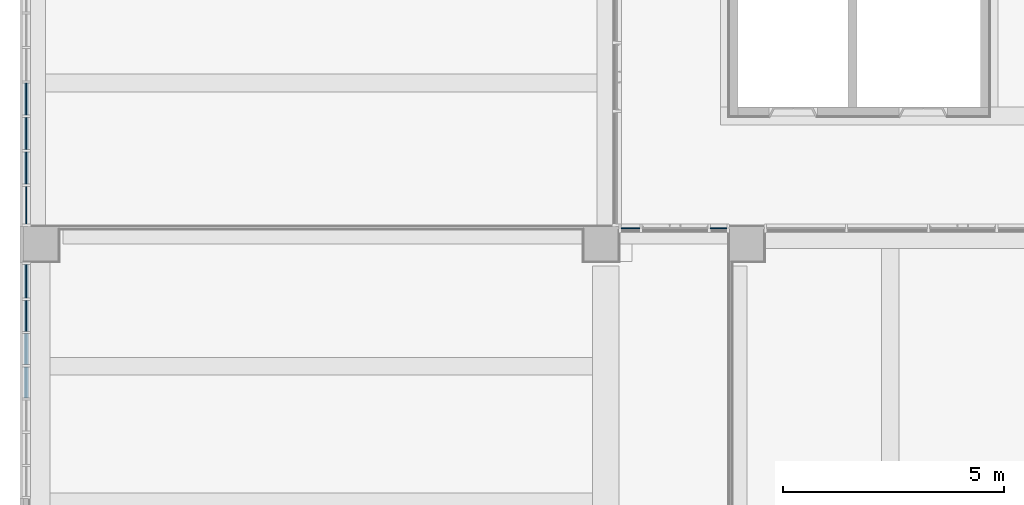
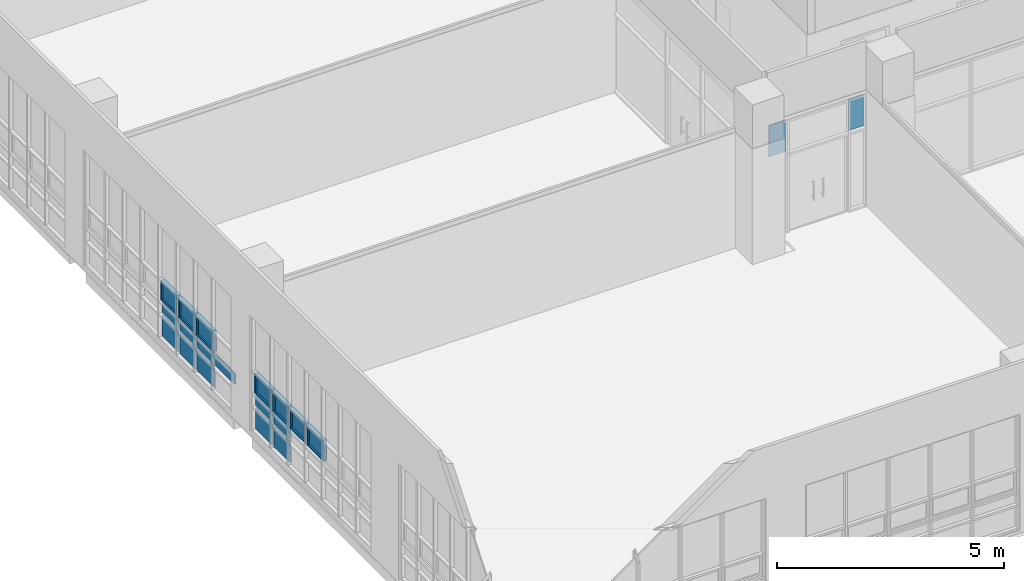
# One storey, part 39 of 74: 20 plates, 3 elements without a shape of their own.
"""IFC2X3 building model written with IfcOpenShell, lengths in millimetres."""

from ifc_helpers import new_model, entity, si_unit, converted_unit, derived_unit, direction, frame, origin, origin_2d_with_axis, place, context, subcontext, project, spatial, polyline, rectangle, outline, extrude, source, transform, mapped, material, material_list, type_object, type_shapes, element, aggregate, save


model = new_model("IFC2X3")

# Units and contexts
model_context = context("Model", 3, precision=0.01, world=origin(), true_north=direction((6.123031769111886e-17, 1.0)))
body_context = subcontext(model_context, "Body", "Model", "MODEL_VIEW")
ifc_project = project(units=[si_unit("LENGTHUNIT", "METRE", prefix="MILLI"), si_unit("AREAUNIT", "SQUARE_METRE"), si_unit("VOLUMEUNIT", "CUBIC_METRE"), converted_unit("PLANEANGLEUNIT", "DEGREE", entity("IfcRatioMeasure", 0.017453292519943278), si_unit("PLANEANGLEUNIT", "RADIAN"), dimensions=[0, 0, 0, 0, 0, 0, 0]), si_unit("MASSUNIT", "GRAM", prefix="KILO"), derived_unit("MASSDENSITYUNIT", [(si_unit("MASSUNIT", "GRAM", prefix="KILO"), 1), (si_unit("LENGTHUNIT", "METRE"), -3)]), derived_unit("MOMENTOFINERTIAUNIT", [(si_unit("LENGTHUNIT", "METRE"), 4)]), si_unit("TIMEUNIT", "SECOND"), si_unit("FREQUENCYUNIT", "HERTZ"), si_unit("THERMODYNAMICTEMPERATUREUNIT", "DEGREE_CELSIUS"), derived_unit("THERMALTRANSMITTANCEUNIT", [(si_unit("MASSUNIT", "GRAM", prefix="KILO"), 1), (si_unit("THERMODYNAMICTEMPERATUREUNIT", "KELVIN"), -1), (si_unit("TIMEUNIT", "SECOND"), -3)]), derived_unit("VOLUMETRICFLOWRATEUNIT", [(si_unit("LENGTHUNIT", "METRE"), 3), (si_unit("TIMEUNIT", "SECOND"), -1)]), derived_unit("MASSFLOWRATEUNIT", [(si_unit("MASSUNIT", "GRAM", prefix="KILO"), 1), (si_unit("TIMEUNIT", "SECOND"), -1)]), derived_unit("ROTATIONALFREQUENCYUNIT", [(si_unit("TIMEUNIT", "SECOND"), -1)]), si_unit("ELECTRICCURRENTUNIT", "AMPERE"), si_unit("ELECTRICVOLTAGEUNIT", "VOLT"), si_unit("POWERUNIT", "WATT"), si_unit("FORCEUNIT", "NEWTON", prefix="KILO"), si_unit("ILLUMINANCEUNIT", "LUX"), si_unit("LUMINOUSFLUXUNIT", "LUMEN"), si_unit("LUMINOUSINTENSITYUNIT", "CANDELA"), derived_unit("USERDEFINED", [(si_unit("MASSUNIT", "GRAM", prefix="KILO"), -1), (si_unit("LENGTHUNIT", "METRE"), -2), (si_unit("TIMEUNIT", "SECOND"), 3), (si_unit("LUMINOUSFLUXUNIT", "LUMEN"), 1)]), derived_unit("SOUNDPOWERUNIT", [(si_unit("MASSUNIT", "GRAM", prefix="KILO"), 1), (si_unit("LENGTHUNIT", "METRE"), 2), (si_unit("TIMEUNIT", "SECOND"), -3)]), derived_unit("SOUNDPRESSUREUNIT", [(si_unit("MASSUNIT", "GRAM", prefix="KILO"), 1), (si_unit("LENGTHUNIT", "METRE"), -1), (si_unit("TIMEUNIT", "SECOND"), -2)]), derived_unit("LINEARVELOCITYUNIT", [(si_unit("LENGTHUNIT", "METRE"), 1), (si_unit("TIMEUNIT", "SECOND"), -1)]), si_unit("PRESSUREUNIT", "PASCAL"), derived_unit("USERDEFINED", [(si_unit("LENGTHUNIT", "METRE"), -2), (si_unit("MASSUNIT", "GRAM", prefix="KILO"), 1), (si_unit("TIMEUNIT", "SECOND"), -2)]), derived_unit("LINEARFORCEUNIT", [(si_unit("MASSUNIT", "GRAM", prefix="KILO"), 1), (si_unit("LENGTHUNIT", "METRE"), 1), (si_unit("TIMEUNIT", "SECOND"), -2), (si_unit("LENGTHUNIT", "METRE"), -1)]), derived_unit("PLANARFORCEUNIT", [(si_unit("MASSUNIT", "GRAM", prefix="KILO"), 1), (si_unit("LENGTHUNIT", "METRE"), 1), (si_unit("TIMEUNIT", "SECOND"), -2), (si_unit("LENGTHUNIT", "METRE"), -2)])], contexts=[model_context])

# Site, building, storey
site_placement = place(None, frame((-14167.972527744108, -657.2125860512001, 0.0)))
site = spatial("IfcSite", under=ifc_project, at=site_placement, Name="Default", CompositionType="ELEMENT")
building_placement = place(site_placement, origin())
building = spatial("IfcBuilding", under=site, at=building_placement, Name="Sample Building", CompositionType="ELEMENT")
storey_placement = place(building_placement, frame((0.0, 0.0, 4800.0)))
storey = spatial("IfcBuildingStorey", under=building, at=storey_placement, Name="지상 2층", CompositionType="ELEMENT", Elevation=4800.000000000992)

# Curtain wall, plates
curtain_wall_type = type_object("IfcCurtainWallType", Name="커튼월:CW112-스테인리스 스틸 커튼월", PredefinedType="NOTDEFINED")
curtain_wall_1_placement = place(storey_placement, frame((0.0, 0.0, -4800.0)))
curtain_wall_1 = element("IfcCurtainWall", 1, at=curtain_wall_1_placement, inside=storey, type_object=curtain_wall_type, Name="커튼월:CW112-스테인리스 스틸 커튼월", ObjectType="커튼월:CW112-스테인리스 스틸 커튼월")
ifc_material_1 = material(Name="KBIMS-로이유리(코팅)")
plate_type_1 = type_object("IfcPlateType", Name="CW300-THK24.Low-e coating glass:CW300-THK24.Low-e coating glass", PredefinedType="CURTAIN_PANEL", material=ifc_material_1)
shared_shape_1 = source(origin(), body_context, "Body", "SweptSolid", [
    extrude(rectangle(XDim=731.2499999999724, YDim=24.000000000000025, at=origin_2d_with_axis()), frame((0.0, 0.0, 0.0), z_axis=(0.0, 0.0, 1.0), x_axis=(-1.0, 0.0, 0.0)), (0.0, 0.0, 1.0), 575.0000000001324),
])
type_shapes(plate_type_1, [shared_shape_1])
plate_1_placement = place(curtain_wall_1_placement, frame((14130.472570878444, 15941.587275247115, 4930.0), z_axis=(0.0, 0.0, 1.0), x_axis=(0.0, -1.0, 0.0)))
plate_1 = element("IfcPlate", 2, at=plate_1_placement, type_object=plate_type_1, material=ifc_material_1, Name="CW300-THK24.Low-e coating glass:CW300-THK24.Low-e coating glass", ObjectType="CW300-THK24.Low-e coating glass:CW300-THK24.Low-e coating glass", context=body_context, shape_type="MappedRepresentation", body=[
    mapped(shared_shape_1, transform((0.0, 0.0, 0.0), scale=1.0)),
])
plate_2_placement = place(curtain_wall_1_placement, frame((14130.472570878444, 15160.33727524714, 4930.0), z_axis=(0.0, 0.0, 1.0), x_axis=(0.0, -1.0, 0.0)))
plate_2 = element("IfcPlate", 3, at=plate_2_placement, type_object=plate_type_1, material=ifc_material_1, Name="CW300-THK24.Low-e coating glass:CW300-THK24.Low-e coating glass", ObjectType="CW300-THK24.Low-e coating glass:CW300-THK24.Low-e coating glass", context=body_context, shape_type="MappedRepresentation", body=[
    mapped(shared_shape_1, transform((0.0, 0.0, 0.0), scale=1.0)),
])
plate_3_placement = place(curtain_wall_1_placement, frame((14130.472570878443, 14379.087275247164, 4930.0), z_axis=(0.0, 0.0, 1.0), x_axis=(0.0, -1.0, 0.0)))
plate_3 = element("IfcPlate", 4, at=plate_3_placement, type_object=plate_type_1, material=ifc_material_1, Name="CW300-THK24.Low-e coating glass:CW300-THK24.Low-e coating glass", ObjectType="CW300-THK24.Low-e coating glass:CW300-THK24.Low-e coating glass", context=body_context, shape_type="MappedRepresentation", body=[
    mapped(shared_shape_1, transform((0.0, 0.0, 0.0), scale=1.0)),
])
plate_type_2 = type_object("IfcPlateType", Name="CW300-THK24.Low-e coating glass:CW300-THK24.Low-e coating glass", PredefinedType="CURTAIN_PANEL", material=ifc_material_1)
shared_shape_2 = source(origin(), body_context, "Body", "SweptSolid", [
    extrude(rectangle(XDim=731.2499999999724, YDim=24.000000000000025, at=origin_2d_with_axis()), frame((0.0, 0.0, 0.0), z_axis=(0.0, 0.0, 1.0), x_axis=(-1.0, 0.0, 0.0)), (0.0, 0.0, 1.0), 300.0),
])
type_shapes(plate_type_2, [shared_shape_2])
plate_4_placement = place(curtain_wall_1_placement, frame((14130.472570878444, 15941.587275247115, 5555.0), z_axis=(0.0, 0.0, 1.0), x_axis=(0.0, -1.0, 0.0)))
plate_4 = element("IfcPlate", 5, at=plate_4_placement, type_object=plate_type_2, material=ifc_material_1, Name="CW300-THK24.Low-e coating glass:CW300-THK24.Low-e coating glass", ObjectType="CW300-THK24.Low-e coating glass:CW300-THK24.Low-e coating glass", context=body_context, shape_type="MappedRepresentation", body=[
    mapped(shared_shape_2, transform((0.0, 0.0, 0.0), scale=1.0)),
])
plate_5_placement = place(curtain_wall_1_placement, frame((14130.472570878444, 15160.33727524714, 5555.0), z_axis=(0.0, 0.0, 1.0), x_axis=(0.0, -1.0, 0.0)))
plate_5 = element("IfcPlate", 6, at=plate_5_placement, type_object=plate_type_2, material=ifc_material_1, Name="CW300-THK24.Low-e coating glass:CW300-THK24.Low-e coating glass", ObjectType="CW300-THK24.Low-e coating glass:CW300-THK24.Low-e coating glass", context=body_context, shape_type="MappedRepresentation", body=[
    mapped(shared_shape_2, transform((0.0, 0.0, 0.0), scale=1.0)),
])
plate_6_placement = place(curtain_wall_1_placement, frame((14130.472570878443, 14379.087275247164, 5555.0), z_axis=(0.0, 0.0, 1.0), x_axis=(0.0, -1.0, 0.0)))
plate_6 = element("IfcPlate", 7, at=plate_6_placement, type_object=plate_type_2, material=ifc_material_1, Name="CW300-THK24.Low-e coating glass:CW300-THK24.Low-e coating glass", ObjectType="CW300-THK24.Low-e coating glass:CW300-THK24.Low-e coating glass", context=body_context, shape_type="MappedRepresentation", body=[
    mapped(shared_shape_2, transform((0.0, 0.0, 0.0), scale=1.0)),
])
plate_type_3 = type_object("IfcPlateType", Name="CW300-THK24.Low-e coating glass:CW300-THK24.Low-e coating glass", PredefinedType="CURTAIN_PANEL", material=ifc_material_1)
shared_shape_3 = source(origin(), body_context, "Body", "SweptSolid", [
    extrude(rectangle(XDim=856.2499672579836, YDim=24.000000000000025, at=origin_2d_with_axis()), frame((0.0, 0.0, 0.0), z_axis=(0.0, 0.0, 1.0), x_axis=(-1.0, 0.0, 0.0)), (0.0, 0.0, 1.0), 300.0),
])
type_shapes(plate_type_3, [shared_shape_3])
plate_7_placement = place(curtain_wall_1_placement, frame((14130.47257087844, 13535.337291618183, 5555.0), z_axis=(0.0, 0.0, 1.0), x_axis=(0.0, -1.0, 0.0)))
plate_7 = element("IfcPlate", 8, at=plate_7_placement, type_object=plate_type_3, material=ifc_material_1, Name="CW300-THK24.Low-e coating glass:CW300-THK24.Low-e coating glass", ObjectType="CW300-THK24.Low-e coating glass:CW300-THK24.Low-e coating glass", context=body_context, shape_type="MappedRepresentation", body=[
    mapped(shared_shape_3, transform((0.0, 0.0, 0.0), scale=1.0)),
])
ifc_material_2 = material(Name="KBIMS-유리")
ifc_material_3 = material(Name="KBIMS-알루미늄")
ifc_material_list_1 = material_list([ifc_material_2, ifc_material_3])
ifc_material_list_2 = material_list([ifc_material_2, ifc_material_3])
plate_type_4 = type_object("IfcPlateType", Name="CW410-프로젝트 창:CW410-프로젝트 창 (하부개폐)", PredefinedType="CURTAIN_PANEL", material=ifc_material_list_2)
shared_shape_4 = source(origin(), body_context, "Body", "SweptSolid", [
    extrude(rectangle(XDim=631.250000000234, YDim=23.999999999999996, at=origin_2d_with_axis()), frame((0.0, -0.04999999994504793, 50.0), z_axis=(0.0, 0.0, 1.0), x_axis=(-1.0, 0.0, 0.0)), (0.0, 0.0, 1.0), 450.0000000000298),
    extrude(outline(polyline([(-365.6249999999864, -275.0), (365.6249999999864, -275.0), (365.6249999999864, 275.0), (-365.6249999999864, 275.0), (-365.6249999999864, -275.0)]), holes=[polyline([(-315.62499999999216, -225.0), (-315.6249999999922, 225.0), (315.6250000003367, 225.0), (315.62500000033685, -225.0), (-315.62499999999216, -225.0)])]), frame((0.0, -50.04999999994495, 275.0), z_axis=(0.0, 1.0, 0.0), x_axis=(1.0, 0.0, 0.0)), (0.0, 0.0, 1.0), 99.99999999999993),
])
type_shapes(plate_type_4, [shared_shape_4])
plate_8_placement = place(curtain_wall_1_placement, frame((14130.472570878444, 15941.587275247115, 5905.0), z_axis=(0.0, 0.0, 1.0), x_axis=(0.0, -1.0, 0.0)))
plate_8 = element("IfcPlate", 9, at=plate_8_placement, type_object=plate_type_4, material=ifc_material_list_1, Name="CW410-프로젝트 창:CW410-프로젝트 창 (하부개폐)", ObjectType="CW410-프로젝트 창:CW410-프로젝트 창 (하부개폐)", context=body_context, shape_type="MappedRepresentation", body=[
    mapped(shared_shape_4, transform((0.0, 0.0, 0.0), scale=1.0)),
])
ifc_material_list_3 = material_list([ifc_material_2, ifc_material_3])
plate_9_placement = place(curtain_wall_1_placement, frame((14130.472570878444, 15160.33727524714, 5905.0), z_axis=(0.0, 0.0, 1.0), x_axis=(0.0, -1.0, 0.0)))
plate_9 = element("IfcPlate", 10, at=plate_9_placement, type_object=plate_type_4, material=ifc_material_list_3, Name="CW410-프로젝트 창:CW410-프로젝트 창 (하부개폐)", ObjectType="CW410-프로젝트 창:CW410-프로젝트 창 (하부개폐)", context=body_context, shape_type="MappedRepresentation", body=[
    mapped(shared_shape_4, transform((0.0, 0.0, 0.0), scale=1.0)),
])
ifc_material_list_4 = material_list([ifc_material_2, ifc_material_3])
plate_10_placement = place(curtain_wall_1_placement, frame((14130.472570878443, 14379.087275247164, 5905.0), z_axis=(0.0, 0.0, 1.0), x_axis=(0.0, -1.0, 0.0)))
plate_10 = element("IfcPlate", 11, at=plate_10_placement, type_object=plate_type_4, material=ifc_material_list_4, Name="CW410-프로젝트 창:CW410-프로젝트 창 (하부개폐)", ObjectType="CW410-프로젝트 창:CW410-프로젝트 창 (하부개폐)", context=body_context, shape_type="MappedRepresentation", body=[
    mapped(shared_shape_4, transform((0.0, 0.0, 0.0), scale=1.0)),
])
aggregate(curtain_wall_1, [plate_1, plate_2, plate_3, plate_4, plate_5, plate_6, plate_7, plate_8, plate_9, plate_10])

curtain_wall_2_placement = place(storey_placement, frame((0.0, 0.0, -4800.0)))
curtain_wall_2 = element("IfcCurtainWall", 12, at=curtain_wall_2_placement, inside=storey, type_object=curtain_wall_type, Name="커튼월:CW112-스테인리스 스틸 커튼월", ObjectType="커튼월:CW112-스테인리스 스틸 커튼월")
plate_type_5 = type_object("IfcPlateType", Name="CW300-THK24.Low-e coating glass:CW300-THK24.Low-e coating glass", PredefinedType="CURTAIN_PANEL", material=ifc_material_1)
shared_shape_5 = source(origin(), body_context, "Body", "SweptSolid", [
    extrude(rectangle(XDim=760.5714613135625, YDim=24.000000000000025, at=origin_2d_with_axis()), frame((0.0, 0.0, 0.0), z_axis=(0.0, 0.0, 1.0), x_axis=(-1.0, 0.0, 0.0)), (0.0, 0.0, 1.0), 575.0000000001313),
])
type_shapes(plate_type_5, [shared_shape_5])
plate_11_placement = place(curtain_wall_2_placement, frame((14130.472570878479, 11808.926577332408, 4930.0), z_axis=(0.0, 0.0, 1.0), x_axis=(0.0, -1.0, 0.0)))
plate_11 = element("IfcPlate", 13, at=plate_11_placement, type_object=plate_type_5, material=ifc_material_1, Name="CW300-THK24.Low-e coating glass:CW300-THK24.Low-e coating glass", ObjectType="CW300-THK24.Low-e coating glass:CW300-THK24.Low-e coating glass", context=body_context, shape_type="MappedRepresentation", body=[
    mapped(shared_shape_5, transform((0.0, 0.0, 0.0), scale=1.0)),
])
plate_type_6 = type_object("IfcPlateType", Name="CW300-THK24.Low-e coating glass:CW300-THK24.Low-e coating glass", PredefinedType="CURTAIN_PANEL", material=ifc_material_1)
shared_shape_6 = source(origin(), body_context, "Body", "SweptSolid", [
    extrude(rectangle(XDim=703.5714285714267, YDim=24.000000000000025, at=origin_2d_with_axis()), frame((0.0, 0.0, 0.0), z_axis=(0.0, 0.0, 1.0), x_axis=(-1.0, 0.0, 0.0)), (0.0, 0.0, 1.0), 575.0000000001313),
])
type_shapes(plate_type_6, [shared_shape_6])
plate_12_placement = place(curtain_wall_2_placement, frame((14130.472570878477, 11026.85513238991, 4930.0), z_axis=(0.0, 0.0, 1.0), x_axis=(0.0, -1.0, 0.0)))
plate_12 = element("IfcPlate", 14, at=plate_12_placement, type_object=plate_type_6, material=ifc_material_1, Name="CW300-THK24.Low-e coating glass:CW300-THK24.Low-e coating glass", ObjectType="CW300-THK24.Low-e coating glass:CW300-THK24.Low-e coating glass", context=body_context, shape_type="MappedRepresentation", body=[
    mapped(shared_shape_6, transform((0.0, 0.0, 0.0), scale=1.0)),
])
plate_type_7 = type_object("IfcPlateType", Name="CW300-THK24.Low-e coating glass:CW300-THK24.Low-e coating glass", PredefinedType="CURTAIN_PANEL", material=ifc_material_1)
shared_shape_7 = source(origin(), body_context, "Body", "SweptSolid", [
    extrude(rectangle(XDim=760.5714613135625, YDim=24.000000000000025, at=origin_2d_with_axis()), frame((0.0, 0.0, 0.0), z_axis=(0.0, 0.0, 1.0), x_axis=(-1.0, 0.0, 0.0)), (0.0, 0.0, 1.0), 300.0000000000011),
])
type_shapes(plate_type_7, [shared_shape_7])
plate_13_placement = place(curtain_wall_2_placement, frame((14130.472570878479, 11808.926577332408, 5555.0), z_axis=(0.0, 0.0, 1.0), x_axis=(0.0, -1.0, 0.0)))
plate_13 = element("IfcPlate", 15, at=plate_13_placement, type_object=plate_type_7, material=ifc_material_1, Name="CW300-THK24.Low-e coating glass:CW300-THK24.Low-e coating glass", ObjectType="CW300-THK24.Low-e coating glass:CW300-THK24.Low-e coating glass", context=body_context, shape_type="MappedRepresentation", body=[
    mapped(shared_shape_7, transform((0.0, 0.0, 0.0), scale=1.0)),
])
plate_type_8 = type_object("IfcPlateType", Name="CW300-THK24.Low-e coating glass:CW300-THK24.Low-e coating glass", PredefinedType="CURTAIN_PANEL", material=ifc_material_1)
shared_shape_8 = source(origin(), body_context, "Body", "SweptSolid", [
    extrude(rectangle(XDim=703.5714285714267, YDim=24.000000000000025, at=origin_2d_with_axis()), frame((0.0, 0.0, 0.0), z_axis=(0.0, 0.0, 1.0), x_axis=(-1.0, 0.0, 0.0)), (0.0, 0.0, 1.0), 300.0000000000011),
])
type_shapes(plate_type_8, [shared_shape_8])
plate_14_placement = place(curtain_wall_2_placement, frame((14130.472570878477, 11026.85513238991, 5555.0), z_axis=(0.0, 0.0, 1.0), x_axis=(0.0, -1.0, 0.0)))
plate_14 = element("IfcPlate", 16, at=plate_14_placement, type_object=plate_type_8, material=ifc_material_1, Name="CW300-THK24.Low-e coating glass:CW300-THK24.Low-e coating glass", ObjectType="CW300-THK24.Low-e coating glass:CW300-THK24.Low-e coating glass", context=body_context, shape_type="MappedRepresentation", body=[
    mapped(shared_shape_8, transform((0.0, 0.0, 0.0), scale=1.0)),
])
ifc_material_list_5 = material_list([ifc_material_2, ifc_material_3])
ifc_material_list_6 = material_list([ifc_material_2, ifc_material_3])
plate_type_9 = type_object("IfcPlateType", Name="CW410-프로젝트 창:CW410-프로젝트 창 (하부개폐)", PredefinedType="CURTAIN_PANEL", material=ifc_material_list_6)
shared_shape_9 = source(origin(), body_context, "Body", "SweptSolid", [
    extrude(rectangle(XDim=660.5714613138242, YDim=23.999999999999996, at=origin_2d_with_axis()), frame((0.0, -0.04999999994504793, 50.0), z_axis=(0.0, 0.0, 1.0), x_axis=(-1.0, 0.0, 0.0)), (0.0, 0.0, 1.0), 450.0000000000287),
    extrude(outline(polyline([(-380.2857306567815, -275.0), (380.2857306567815, -275.0), (380.2857306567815, 275.0), (-380.2857306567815, 275.0), (-380.2857306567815, -275.0)]), holes=[polyline([(-330.2857306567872, -225.0), (-330.2857306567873, 225.0), (330.28573065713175, 225.0), (330.2857306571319, -225.0), (-330.2857306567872, -225.0)])]), frame((0.0, -50.04999999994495, 275.0), z_axis=(0.0, 1.0, 0.0), x_axis=(1.0, 0.0, 0.0)), (0.0, 0.0, 1.0), 99.99999999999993),
])
type_shapes(plate_type_9, [shared_shape_9])
plate_15_placement = place(curtain_wall_2_placement, frame((14130.472570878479, 11808.926577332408, 5905.0), z_axis=(0.0, 0.0, 1.0), x_axis=(0.0, -1.0, 0.0)))
plate_15 = element("IfcPlate", 17, at=plate_15_placement, type_object=plate_type_9, material=ifc_material_list_5, Name="CW410-프로젝트 창:CW410-프로젝트 창 (하부개폐)", ObjectType="CW410-프로젝트 창:CW410-프로젝트 창 (하부개폐)", context=body_context, shape_type="MappedRepresentation", body=[
    mapped(shared_shape_9, transform((0.0, 0.0, 0.0), scale=1.0)),
])
ifc_material_list_7 = material_list([ifc_material_2, ifc_material_3])
ifc_material_list_8 = material_list([ifc_material_2, ifc_material_3])
plate_type_10 = type_object("IfcPlateType", Name="CW410-프로젝트 창:CW410-프로젝트 창 (하부개폐)", PredefinedType="CURTAIN_PANEL", material=ifc_material_list_8)
shared_shape_10 = source(origin(), body_context, "Body", "SweptSolid", [
    extrude(rectangle(XDim=603.5714285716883, YDim=23.999999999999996, at=origin_2d_with_axis()), frame((0.0, -0.04999999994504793, 50.0), z_axis=(0.0, 0.0, 1.0), x_axis=(-1.0, 0.0, 0.0)), (0.0, 0.0, 1.0), 450.0000000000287),
    extrude(outline(polyline([(-351.78571428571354, -275.0), (351.78571428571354, -275.0), (351.78571428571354, 275.0), (-351.78571428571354, 275.0), (-351.78571428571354, -275.0)]), holes=[polyline([(-301.7857142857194, -225.0), (-301.7857142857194, 225.0), (301.785714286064, 225.0), (301.785714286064, -225.0), (-301.7857142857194, -225.0)])]), frame((0.0, -50.04999999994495, 275.0), z_axis=(0.0, 1.0, 0.0), x_axis=(1.0, 0.0, 0.0)), (0.0, 0.0, 1.0), 99.99999999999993),
])
type_shapes(plate_type_10, [shared_shape_10])
plate_16_placement = place(curtain_wall_2_placement, frame((14130.472570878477, 11026.85513238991, 5905.0), z_axis=(0.0, 0.0, 1.0), x_axis=(0.0, -1.0, 0.0)))
plate_16 = element("IfcPlate", 18, at=plate_16_placement, type_object=plate_type_10, material=ifc_material_list_7, Name="CW410-프로젝트 창:CW410-프로젝트 창 (하부개폐)", ObjectType="CW410-프로젝트 창:CW410-프로젝트 창 (하부개폐)", context=body_context, shape_type="MappedRepresentation", body=[
    mapped(shared_shape_10, transform((0.0, 0.0, 0.0), scale=1.0)),
])
ifc_material_list_9 = material_list([ifc_material_2, ifc_material_3])
plate_17_placement = place(curtain_wall_2_placement, frame((14130.472570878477, 10273.283703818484, 5905.0), z_axis=(0.0, 0.0, 1.0), x_axis=(0.0, -1.0, 0.0)))
plate_17 = element("IfcPlate", 19, at=plate_17_placement, type_object=plate_type_10, material=ifc_material_list_9, Name="CW410-프로젝트 창:CW410-프로젝트 창 (하부개폐)", ObjectType="CW410-프로젝트 창:CW410-프로젝트 창 (하부개폐)", context=body_context, shape_type="MappedRepresentation", body=[
    mapped(shared_shape_10, transform((0.0, 0.0, 0.0), scale=1.0)),
])
ifc_material_list_10 = material_list([ifc_material_2, ifc_material_3])
plate_18_placement = place(curtain_wall_2_placement, frame((14130.472570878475, 9519.712275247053, 5905.0), z_axis=(0.0, 0.0, 1.0), x_axis=(0.0, -1.0, 0.0)))
plate_18 = element("IfcPlate", 20, at=plate_18_placement, type_object=plate_type_10, material=ifc_material_list_10, Name="CW410-프로젝트 창:CW410-프로젝트 창 (하부개폐)", ObjectType="CW410-프로젝트 창:CW410-프로젝트 창 (하부개폐)", context=body_context, shape_type="MappedRepresentation", body=[
    mapped(shared_shape_10, transform((0.0, 0.0, 0.0), scale=1.0)),
])
aggregate(curtain_wall_2, [plate_11, plate_12, plate_13, plate_14, plate_15, plate_16, plate_17, plate_18])

curtain_wall_3_placement = place(storey_placement, frame((0.0, 0.0, -4800.0)))
curtain_wall_3 = element("IfcCurtainWall", 21, at=curtain_wall_3_placement, inside=storey, type_object=curtain_wall_type, Name="커튼월:CW112-스테인리스 스틸 커튼월", ObjectType="커튼월:CW112-스테인리스 스틸 커튼월")
plate_type_11 = type_object("IfcPlateType", Name="CW300-THK24.Low-e coating glass:CW300-THK24.Low-e coating glass", PredefinedType="CURTAIN_PANEL", material=ifc_material_1)
shared_shape_11 = source(origin(), body_context, "Body", "SweptSolid", [
    extrude(rectangle(XDim=24.000000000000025, YDim=376.829299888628, at=origin_2d_with_axis()), frame((0.0, 0.0, 0.0), z_axis=(0.0, 0.0, 1.0), x_axis=(0.0, 1.0, 0.0)), (0.0, 0.0, 1.0), 845.0000000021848),
])
type_shapes(plate_type_11, [shared_shape_11])
plate_19_placement = place(curtain_wall_3_placement, frame((29829.540464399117, 13012.212307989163, 7005.0), z_axis=(0.0, 0.0, 1.0), x_axis=(-1.0, 0.0, 0.0)))
plate_19 = element("IfcPlate", 22, at=plate_19_placement, type_object=plate_type_11, material=ifc_material_1, Name="CW300-THK24.Low-e coating glass:CW300-THK24.Low-e coating glass", ObjectType="CW300-THK24.Low-e coating glass:CW300-THK24.Low-e coating glass", context=body_context, shape_type="MappedRepresentation", body=[
    mapped(shared_shape_11, transform((0.0, 0.0, 0.0), scale=1.0)),
])
plate_type_12 = type_object("IfcPlateType", Name="CW300-THK24.Low-e coating glass:CW300-THK24.Low-e coating glass", PredefinedType="CURTAIN_PANEL", material=ifc_material_1)
shared_shape_12 = source(origin(), body_context, "Body", "SweptSolid", [
    extrude(rectangle(XDim=24.000000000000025, YDim=423.1454999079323, at=origin_2d_with_axis()), frame((0.0, 0.0, 0.0), z_axis=(0.0, 0.0, 1.0), x_axis=(0.0, 1.0, 0.0)), (0.0, 0.0, 1.0), 845.0000000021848),
])
type_shapes(plate_type_12, [shared_shape_12])
plate_20_placement = place(curtain_wall_3_placement, frame((27829.553064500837, 13012.212307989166, 7005.0), z_axis=(0.0, 0.0, 1.0), x_axis=(-1.0, 0.0, 0.0)))
plate_20 = element("IfcPlate", 23, at=plate_20_placement, type_object=plate_type_12, material=ifc_material_1, Name="CW300-THK24.Low-e coating glass:CW300-THK24.Low-e coating glass", ObjectType="CW300-THK24.Low-e coating glass:CW300-THK24.Low-e coating glass", context=body_context, shape_type="MappedRepresentation", body=[
    mapped(shared_shape_12, transform((0.0, 0.0, 0.0), scale=1.0)),
])
aggregate(curtain_wall_3, [plate_19, plate_20])

save(model, "model.ifc")
